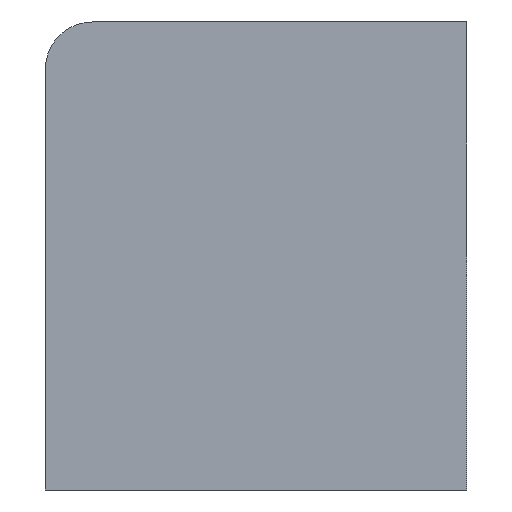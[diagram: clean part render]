
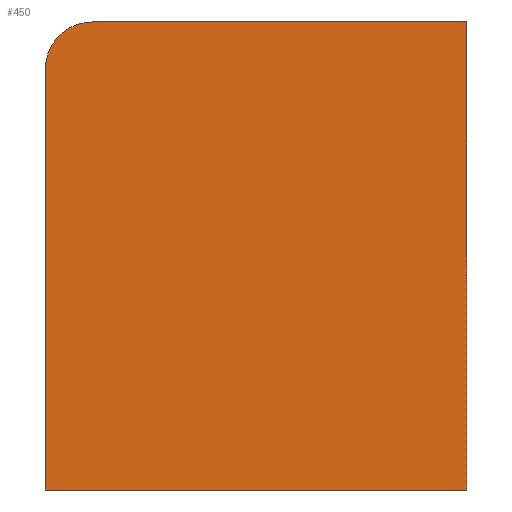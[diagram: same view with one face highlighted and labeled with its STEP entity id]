
A CAD part, left-side view. The second image highlights one B-rep face of the part: STEP entity #450.
In plain terms, the highlighted planar face has unit normal (-1, 0, 0).
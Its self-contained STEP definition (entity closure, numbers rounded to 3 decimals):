
#233=CARTESIAN_POINT('Vertex',(0.,0.,100.)) ;
#236=CARTESIAN_POINT('Line Origine',(0.,0.,50.)) ;
#240=CARTESIAN_POINT('Vertex',(0.,0.,0.)) ;
#329=CARTESIAN_POINT('Vertex',(0.,90.,0.)) ;
#332=CARTESIAN_POINT('Line Origine',(0.,90.,45.)) ;
#336=CARTESIAN_POINT('Vertex',(0.,90.,90.)) ;
#396=CARTESIAN_POINT('Line Origine',(0.,45.,0.)) ;
#414=CARTESIAN_POINT('Axis2P3D Location',(0.,80.,90.)) ;
#418=CARTESIAN_POINT('Vertex',(0.,80.,100.)) ;
#433=CARTESIAN_POINT('Axis2P3D Location',(0.,90.,0.)) ;
#438=CARTESIAN_POINT('Line Origine',(0.,40.,100.)) ;
#237=DIRECTION('Vector Direction',(0.,0.,1.)) ;
#333=DIRECTION('Vector Direction',(0.,0.,1.)) ;
#397=DIRECTION('Vector Direction',(0.,-1.,0.)) ;
#415=DIRECTION('Axis2P3D Direction',(-1.,0.,0.)) ;
#434=DIRECTION('Axis2P3D Direction',(-1.,0.,0.)) ;
#435=DIRECTION('Axis2P3D XDirection',(0.,-1.,0.)) ;
#439=DIRECTION('Vector Direction',(0.,1.,0.)) ;
#416=AXIS2_PLACEMENT_3D('Circle Axis2P3D',#414,#415,$) ;
#436=AXIS2_PLACEMENT_3D('Plane Axis2P3D',#433,#434,#435) ;
#444=ORIENTED_EDGE('',*,*,#242,.T.) ;
#445=ORIENTED_EDGE('',*,*,#442,.T.) ;
#446=ORIENTED_EDGE('',*,*,#420,.T.) ;
#447=ORIENTED_EDGE('',*,*,#338,.F.) ;
#448=ORIENTED_EDGE('',*,*,#400,.T.) ;
#238=VECTOR('Line Direction',#237,1.) ;
#334=VECTOR('Line Direction',#333,1.) ;
#398=VECTOR('Line Direction',#397,1.) ;
#440=VECTOR('Line Direction',#439,1.) ;
#450=ADVANCED_FACE('PartBody',(#449),#437,.T.) ;
#417=CIRCLE('generated circle',#416,10.) ;
#242=EDGE_CURVE('',#241,#234,#239,.T.) ;
#338=EDGE_CURVE('',#330,#337,#335,.T.) ;
#400=EDGE_CURVE('',#330,#241,#399,.T.) ;
#420=EDGE_CURVE('',#419,#337,#417,.T.) ;
#442=EDGE_CURVE('',#234,#419,#441,.T.) ;
#443=EDGE_LOOP('',(#444,#445,#446,#447,#448)) ;
#449=FACE_OUTER_BOUND('',#443,.T.) ;
#239=LINE('Line',#236,#238) ;
#335=LINE('Line',#332,#334) ;
#399=LINE('Line',#396,#398) ;
#441=LINE('Line',#438,#440) ;
#437=PLANE('',#436) ;
#234=VERTEX_POINT('',#233) ;
#241=VERTEX_POINT('',#240) ;
#330=VERTEX_POINT('',#329) ;
#337=VERTEX_POINT('',#336) ;
#419=VERTEX_POINT('',#418) ;
